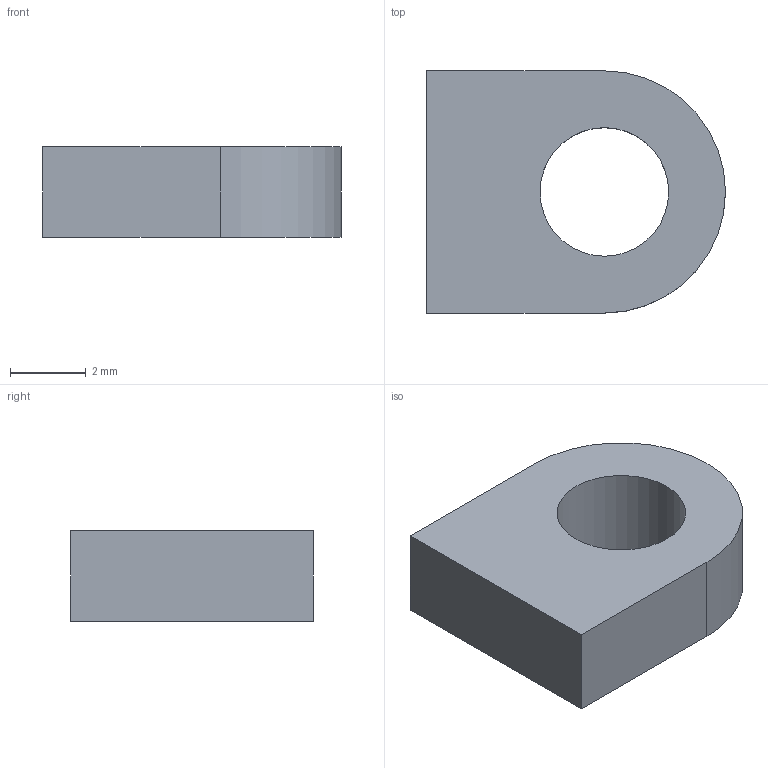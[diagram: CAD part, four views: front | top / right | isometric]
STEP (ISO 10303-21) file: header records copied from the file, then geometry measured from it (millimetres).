
FILE_DESCRIPTION(('Open CASCADE Model'),'2;1');
FILE_NAME('Open CASCADE Shape Model','2026-09-07T22:19:20',('Author'),( 'Open CASCADE'),'Open CASCADE STEP processor 7.9','build123d', 'Unknown');
FILE_SCHEMA(('AUTOMOTIVE_DESIGN { 1 0 10303 214 1 1 1 1 }'));
Length unit declared in the file: millimetre
Products named in the file (1): COMPOUND
Bounding box: 7.9 x 6.4 x 2.4 mm (x, y, z)
Volume: 89 mm3; surface area: 161.9 mm2
Topology: 1 solids, 1 shells, 7 faces, 15 edges, 10 vertices
Faces by surface type: plane 5, cylinder 2
Full cylindrical faces by diameter (mm): 3.4 x1
Entity records: 403 total; most frequent: CARTESIAN_POINT 71, DIRECTION 62, LINE 35, VECTOR 35, ORIENTED_EDGE 30, PCURVE 30, DEFINITIONAL_REPRESENTATION 30, EDGE_CURVE 15
